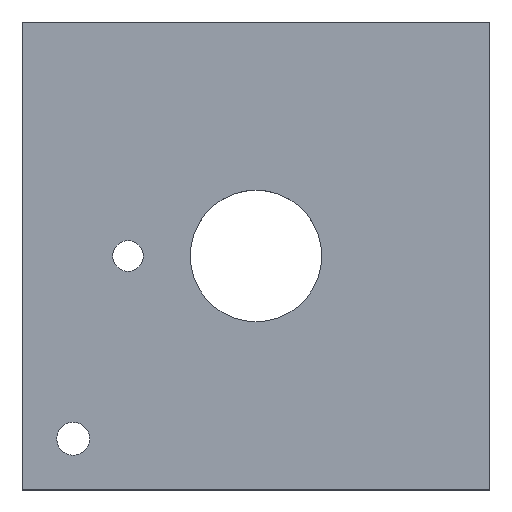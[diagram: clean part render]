
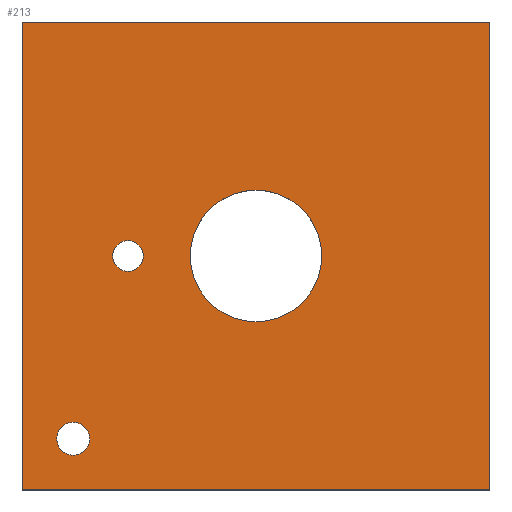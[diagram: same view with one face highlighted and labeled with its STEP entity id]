
A CAD part, top view. The second image highlights one B-rep face of the part: STEP entity #213.
In plain terms, the highlighted planar face has unit normal (0, 0, 1).
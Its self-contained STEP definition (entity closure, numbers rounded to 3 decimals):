
#24 = VERTEX_POINT('',#25);
#25 = CARTESIAN_POINT('',(-32.,-32.,3.5));
#32 = PLANE('',#33);
#33 = AXIS2_PLACEMENT_3D('',#34,#35,#36);
#34 = CARTESIAN_POINT('',(-32.,-32.,-3.5));
#35 = DIRECTION('',(1.,0.,0.));
#36 = DIRECTION('',(0.,0.,1.));
#44 = PLANE('',#45);
#45 = AXIS2_PLACEMENT_3D('',#46,#47,#48);
#46 = CARTESIAN_POINT('',(-32.,-32.,-3.5));
#47 = DIRECTION('',(0.,1.,0.));
#48 = DIRECTION('',(0.,0.,1.));
#85 = VERTEX_POINT('',#86);
#86 = CARTESIAN_POINT('',(-32.,32.,3.5));
#100 = PLANE('',#101);
#101 = AXIS2_PLACEMENT_3D('',#102,#103,#104);
#102 = CARTESIAN_POINT('',(-32.,32.,-3.5));
#103 = DIRECTION('',(0.,1.,0.));
#104 = DIRECTION('',(0.,0.,1.));
#112 = EDGE_CURVE('',#24,#85,#113,.T.);
#113 = SURFACE_CURVE('',#114,(#118,#125),.PCURVE_S1.);
#114 = LINE('',#115,#116);
#115 = CARTESIAN_POINT('',(-32.,-32.,3.5));
#116 = VECTOR('',#117,1.);
#117 = DIRECTION('',(0.,1.,0.));
#118 = PCURVE('',#32,#119);
#119 = DEFINITIONAL_REPRESENTATION('',(#120),#124);
#120 = LINE('',#121,#122);
#121 = CARTESIAN_POINT('',(7.,0.));
#122 = VECTOR('',#123,1.);
#123 = DIRECTION('',(0.,-1.));
#124 = ( GEOMETRIC_REPRESENTATION_CONTEXT(2) 
PARAMETRIC_REPRESENTATION_CONTEXT() REPRESENTATION_CONTEXT('2D SPACE',''
  ) );
#125 = PCURVE('',#126,#131);
#126 = PLANE('',#127);
#127 = AXIS2_PLACEMENT_3D('',#128,#129,#130);
#128 = CARTESIAN_POINT('',(-32.,-32.,3.5));
#129 = DIRECTION('',(0.,0.,1.));
#130 = DIRECTION('',(1.,0.,0.));
#131 = DEFINITIONAL_REPRESENTATION('',(#132),#136);
#132 = LINE('',#133,#134);
#133 = CARTESIAN_POINT('',(0.,0.));
#134 = VECTOR('',#135,1.);
#135 = DIRECTION('',(0.,1.));
#136 = ( GEOMETRIC_REPRESENTATION_CONTEXT(2) 
PARAMETRIC_REPRESENTATION_CONTEXT() REPRESENTATION_CONTEXT('2D SPACE',''
  ) );
#165 = EDGE_CURVE('',#24,#166,#168,.T.);
#166 = VERTEX_POINT('',#167);
#167 = CARTESIAN_POINT('',(32.,-32.,3.5));
#168 = SURFACE_CURVE('',#169,(#173,#180),.PCURVE_S1.);
#169 = LINE('',#170,#171);
#170 = CARTESIAN_POINT('',(-32.,-32.,3.5));
#171 = VECTOR('',#172,1.);
#172 = DIRECTION('',(1.,0.,0.));
#173 = PCURVE('',#44,#174);
#174 = DEFINITIONAL_REPRESENTATION('',(#175),#179);
#175 = LINE('',#176,#177);
#176 = CARTESIAN_POINT('',(7.,0.));
#177 = VECTOR('',#178,1.);
#178 = DIRECTION('',(0.,1.));
#179 = ( GEOMETRIC_REPRESENTATION_CONTEXT(2) 
PARAMETRIC_REPRESENTATION_CONTEXT() REPRESENTATION_CONTEXT('2D SPACE',''
  ) );
#180 = PCURVE('',#126,#181);
#181 = DEFINITIONAL_REPRESENTATION('',(#182),#186);
#182 = LINE('',#183,#184);
#183 = CARTESIAN_POINT('',(0.,0.));
#184 = VECTOR('',#185,1.);
#185 = DIRECTION('',(1.,0.));
#186 = ( GEOMETRIC_REPRESENTATION_CONTEXT(2) 
PARAMETRIC_REPRESENTATION_CONTEXT() REPRESENTATION_CONTEXT('2D SPACE',''
  ) );
#202 = PLANE('',#203);
#203 = AXIS2_PLACEMENT_3D('',#204,#205,#206);
#204 = CARTESIAN_POINT('',(32.,-32.,-3.5));
#205 = DIRECTION('',(1.,0.,0.));
#206 = DIRECTION('',(0.,0.,1.));
#213 = ADVANCED_FACE('',(#214,#262,#297,#332),#126,.T.);
#214 = FACE_BOUND('',#215,.T.);
#215 = EDGE_LOOP('',(#216,#217,#218,#241));
#216 = ORIENTED_EDGE('',*,*,#112,.F.);
#217 = ORIENTED_EDGE('',*,*,#165,.T.);
#218 = ORIENTED_EDGE('',*,*,#219,.T.);
#219 = EDGE_CURVE('',#166,#220,#222,.T.);
#220 = VERTEX_POINT('',#221);
#221 = CARTESIAN_POINT('',(32.,32.,3.5));
#222 = SURFACE_CURVE('',#223,(#227,#234),.PCURVE_S1.);
#223 = LINE('',#224,#225);
#224 = CARTESIAN_POINT('',(32.,-32.,3.5));
#225 = VECTOR('',#226,1.);
#226 = DIRECTION('',(0.,1.,0.));
#227 = PCURVE('',#126,#228);
#228 = DEFINITIONAL_REPRESENTATION('',(#229),#233);
#229 = LINE('',#230,#231);
#230 = CARTESIAN_POINT('',(64.,0.));
#231 = VECTOR('',#232,1.);
#232 = DIRECTION('',(0.,1.));
#233 = ( GEOMETRIC_REPRESENTATION_CONTEXT(2) 
PARAMETRIC_REPRESENTATION_CONTEXT() REPRESENTATION_CONTEXT('2D SPACE',''
  ) );
#234 = PCURVE('',#202,#235);
#235 = DEFINITIONAL_REPRESENTATION('',(#236),#240);
#236 = LINE('',#237,#238);
#237 = CARTESIAN_POINT('',(7.,0.));
#238 = VECTOR('',#239,1.);
#239 = DIRECTION('',(0.,-1.));
#240 = ( GEOMETRIC_REPRESENTATION_CONTEXT(2) 
PARAMETRIC_REPRESENTATION_CONTEXT() REPRESENTATION_CONTEXT('2D SPACE',''
  ) );
#241 = ORIENTED_EDGE('',*,*,#242,.F.);
#242 = EDGE_CURVE('',#85,#220,#243,.T.);
#243 = SURFACE_CURVE('',#244,(#248,#255),.PCURVE_S1.);
#244 = LINE('',#245,#246);
#245 = CARTESIAN_POINT('',(-32.,32.,3.5));
#246 = VECTOR('',#247,1.);
#247 = DIRECTION('',(1.,0.,0.));
#248 = PCURVE('',#126,#249);
#249 = DEFINITIONAL_REPRESENTATION('',(#250),#254);
#250 = LINE('',#251,#252);
#251 = CARTESIAN_POINT('',(0.,64.));
#252 = VECTOR('',#253,1.);
#253 = DIRECTION('',(1.,0.));
#254 = ( GEOMETRIC_REPRESENTATION_CONTEXT(2) 
PARAMETRIC_REPRESENTATION_CONTEXT() REPRESENTATION_CONTEXT('2D SPACE',''
  ) );
#255 = PCURVE('',#100,#256);
#256 = DEFINITIONAL_REPRESENTATION('',(#257),#261);
#257 = LINE('',#258,#259);
#258 = CARTESIAN_POINT('',(7.,0.));
#259 = VECTOR('',#260,1.);
#260 = DIRECTION('',(0.,1.));
#261 = ( GEOMETRIC_REPRESENTATION_CONTEXT(2) 
PARAMETRIC_REPRESENTATION_CONTEXT() REPRESENTATION_CONTEXT('2D SPACE',''
  ) );
#262 = FACE_BOUND('',#263,.T.);
#263 = EDGE_LOOP('',(#264));
#264 = ORIENTED_EDGE('',*,*,#265,.T.);
#265 = EDGE_CURVE('',#266,#266,#268,.T.);
#266 = VERTEX_POINT('',#267);
#267 = CARTESIAN_POINT('',(-27.25,-25.,3.5));
#268 = SURFACE_CURVE('',#269,(#274,#285),.PCURVE_S1.);
#269 = CIRCLE('',#270,2.25);
#270 = AXIS2_PLACEMENT_3D('',#271,#272,#273);
#271 = CARTESIAN_POINT('',(-25.,-25.,3.5));
#272 = DIRECTION('',(0.,0.,-1.));
#273 = DIRECTION('',(-1.,0.,0.));
#274 = PCURVE('',#126,#275);
#275 = DEFINITIONAL_REPRESENTATION('',(#276),#284);
#276 = ( BOUNDED_CURVE() B_SPLINE_CURVE(2,(#277,#278,#279,#280,#281,#282
,#283),.UNSPECIFIED.,.T.,.F.) B_SPLINE_CURVE_WITH_KNOTS((1,2,2,2,2,1),(
    -2.094,0.,2.094,4.189,6.283,
8.378),.UNSPECIFIED.) CURVE() GEOMETRIC_REPRESENTATION_ITEM() 
RATIONAL_B_SPLINE_CURVE((1.,0.5,1.,0.5,1.,0.5,1.)) REPRESENTATION_ITEM(
  '') );
#277 = CARTESIAN_POINT('',(4.75,7.));
#278 = CARTESIAN_POINT('',(4.75,10.897));
#279 = CARTESIAN_POINT('',(8.125,8.949));
#280 = CARTESIAN_POINT('',(11.5,7.));
#281 = CARTESIAN_POINT('',(8.125,5.051));
#282 = CARTESIAN_POINT('',(4.75,3.103));
#283 = CARTESIAN_POINT('',(4.75,7.));
#284 = ( GEOMETRIC_REPRESENTATION_CONTEXT(2) 
PARAMETRIC_REPRESENTATION_CONTEXT() REPRESENTATION_CONTEXT('2D SPACE',''
  ) );
#285 = PCURVE('',#286,#291);
#286 = CYLINDRICAL_SURFACE('',#287,2.25);
#287 = AXIS2_PLACEMENT_3D('',#288,#289,#290);
#288 = CARTESIAN_POINT('',(-25.,-25.,3.5));
#289 = DIRECTION('',(0.,0.,-1.));
#290 = DIRECTION('',(-1.,0.,0.));
#291 = DEFINITIONAL_REPRESENTATION('',(#292),#296);
#292 = LINE('',#293,#294);
#293 = CARTESIAN_POINT('',(0.,0.));
#294 = VECTOR('',#295,1.);
#295 = DIRECTION('',(1.,0.));
#296 = ( GEOMETRIC_REPRESENTATION_CONTEXT(2) 
PARAMETRIC_REPRESENTATION_CONTEXT() REPRESENTATION_CONTEXT('2D SPACE',''
  ) );
#297 = FACE_BOUND('',#298,.T.);
#298 = EDGE_LOOP('',(#299));
#299 = ORIENTED_EDGE('',*,*,#300,.T.);
#300 = EDGE_CURVE('',#301,#301,#303,.T.);
#301 = VERTEX_POINT('',#302);
#302 = CARTESIAN_POINT('',(-19.6,0.,3.5));
#303 = SURFACE_CURVE('',#304,(#309,#320),.PCURVE_S1.);
#304 = CIRCLE('',#305,2.1);
#305 = AXIS2_PLACEMENT_3D('',#306,#307,#308);
#306 = CARTESIAN_POINT('',(-17.5,0.,3.5));
#307 = DIRECTION('',(0.,0.,-1.));
#308 = DIRECTION('',(-1.,0.,0.));
#309 = PCURVE('',#126,#310);
#310 = DEFINITIONAL_REPRESENTATION('',(#311),#319);
#311 = ( BOUNDED_CURVE() B_SPLINE_CURVE(2,(#312,#313,#314,#315,#316,#317
,#318),.UNSPECIFIED.,.T.,.F.) B_SPLINE_CURVE_WITH_KNOTS((1,2,2,2,2,1),(
    -2.094,0.,2.094,4.189,6.283,
8.378),.UNSPECIFIED.) CURVE() GEOMETRIC_REPRESENTATION_ITEM() 
RATIONAL_B_SPLINE_CURVE((1.,0.5,1.,0.5,1.,0.5,1.)) REPRESENTATION_ITEM(
  '') );
#312 = CARTESIAN_POINT('',(12.4,32.));
#313 = CARTESIAN_POINT('',(12.4,35.637));
#314 = CARTESIAN_POINT('',(15.55,33.819));
#315 = CARTESIAN_POINT('',(18.7,32.));
#316 = CARTESIAN_POINT('',(15.55,30.181));
#317 = CARTESIAN_POINT('',(12.4,28.363));
#318 = CARTESIAN_POINT('',(12.4,32.));
#319 = ( GEOMETRIC_REPRESENTATION_CONTEXT(2) 
PARAMETRIC_REPRESENTATION_CONTEXT() REPRESENTATION_CONTEXT('2D SPACE',''
  ) );
#320 = PCURVE('',#321,#326);
#321 = CYLINDRICAL_SURFACE('',#322,2.1);
#322 = AXIS2_PLACEMENT_3D('',#323,#324,#325);
#323 = CARTESIAN_POINT('',(-17.5,0.,3.5));
#324 = DIRECTION('',(0.,0.,-1.));
#325 = DIRECTION('',(-1.,0.,0.));
#326 = DEFINITIONAL_REPRESENTATION('',(#327),#331);
#327 = LINE('',#328,#329);
#328 = CARTESIAN_POINT('',(0.,0.));
#329 = VECTOR('',#330,1.);
#330 = DIRECTION('',(1.,0.));
#331 = ( GEOMETRIC_REPRESENTATION_CONTEXT(2) 
PARAMETRIC_REPRESENTATION_CONTEXT() REPRESENTATION_CONTEXT('2D SPACE',''
  ) );
#332 = FACE_BOUND('',#333,.T.);
#333 = EDGE_LOOP('',(#334));
#334 = ORIENTED_EDGE('',*,*,#335,.T.);
#335 = EDGE_CURVE('',#336,#336,#338,.T.);
#336 = VERTEX_POINT('',#337);
#337 = CARTESIAN_POINT('',(-9.,0.,3.5));
#338 = SURFACE_CURVE('',#339,(#344,#355),.PCURVE_S1.);
#339 = CIRCLE('',#340,9.);
#340 = AXIS2_PLACEMENT_3D('',#341,#342,#343);
#341 = CARTESIAN_POINT('',(0.,0.,3.5));
#342 = DIRECTION('',(0.,0.,-1.));
#343 = DIRECTION('',(-1.,0.,0.));
#344 = PCURVE('',#126,#345);
#345 = DEFINITIONAL_REPRESENTATION('',(#346),#354);
#346 = ( BOUNDED_CURVE() B_SPLINE_CURVE(2,(#347,#348,#349,#350,#351,#352
,#353),.UNSPECIFIED.,.T.,.F.) B_SPLINE_CURVE_WITH_KNOTS((1,2,2,2,2,1),(
    -2.094,0.,2.094,4.189,6.283,
8.378),.UNSPECIFIED.) CURVE() GEOMETRIC_REPRESENTATION_ITEM() 
RATIONAL_B_SPLINE_CURVE((1.,0.5,1.,0.5,1.,0.5,1.)) REPRESENTATION_ITEM(
  '') );
#347 = CARTESIAN_POINT('',(23.,32.));
#348 = CARTESIAN_POINT('',(23.,47.588));
#349 = CARTESIAN_POINT('',(36.5,39.794));
#350 = CARTESIAN_POINT('',(50.,32.));
#351 = CARTESIAN_POINT('',(36.5,24.206));
#352 = CARTESIAN_POINT('',(23.,16.412));
#353 = CARTESIAN_POINT('',(23.,32.));
#354 = ( GEOMETRIC_REPRESENTATION_CONTEXT(2) 
PARAMETRIC_REPRESENTATION_CONTEXT() REPRESENTATION_CONTEXT('2D SPACE',''
  ) );
#355 = PCURVE('',#356,#361);
#356 = CYLINDRICAL_SURFACE('',#357,9.);
#357 = AXIS2_PLACEMENT_3D('',#358,#359,#360);
#358 = CARTESIAN_POINT('',(0.,0.,3.5));
#359 = DIRECTION('',(0.,0.,-1.));
#360 = DIRECTION('',(-1.,0.,0.));
#361 = DEFINITIONAL_REPRESENTATION('',(#362),#366);
#362 = LINE('',#363,#364);
#363 = CARTESIAN_POINT('',(0.,0.));
#364 = VECTOR('',#365,1.);
#365 = DIRECTION('',(1.,0.));
#366 = ( GEOMETRIC_REPRESENTATION_CONTEXT(2) 
PARAMETRIC_REPRESENTATION_CONTEXT() REPRESENTATION_CONTEXT('2D SPACE',''
  ) );
